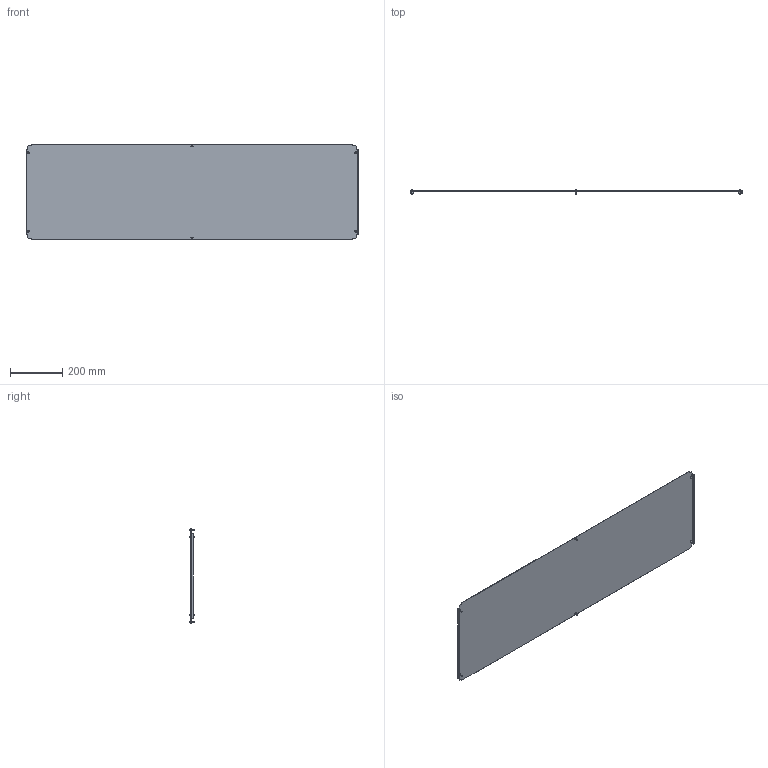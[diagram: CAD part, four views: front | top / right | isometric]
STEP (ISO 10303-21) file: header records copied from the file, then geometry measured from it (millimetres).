
FILE_DESCRIPTION (( 'STEP AP203' ), '1' );
FILE_NAME ('R5N1BP145.STEP', '2025-02-21T14:01:06', ( '' ), ( '' ), 'SwSTEP 2.0', 'SolidWorks 2022', '' );
FILE_SCHEMA (( 'CONFIG_CONTROL_DESIGN' ));
Length unit declared in the file: millimetre
Products named in the file (3): M5x12 DIN 7500 C Torx Zinc_stright; R5N1BP145; RB.1923.00.00.0_-29
Assembly tree (7 placements, depth 2):
  R5N1BP145
    RB.1923.00.00.0_-29
    M5x12 DIN 7500 C Torx Zinc_stright  x6
Bounding box: 1268 x 15.56 x 362 mm (x, y, z)
Volume: 696886 mm3; surface area: 933469.4 mm2
Topology: 7 solids, 7 shells, 166 faces, 384 edges, 238 vertices
Faces by surface type: plane 106, cylinder 24, torus 12, cone 12, sphere 6, bspline 6
Full cylindrical faces by diameter (mm): 5 x6, 9.5 x6
Entity records: 3297 total; most frequent: CARTESIAN_POINT 674, ORIENTED_EDGE 448, DIRECTION 444, EDGE_CURVE 224, LINE 180, VECTOR 180, VERTEX_POINT 150, AXIS2_PLACEMENT_3D 132
